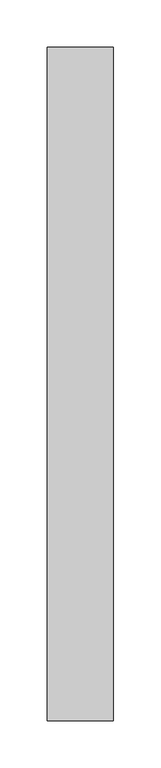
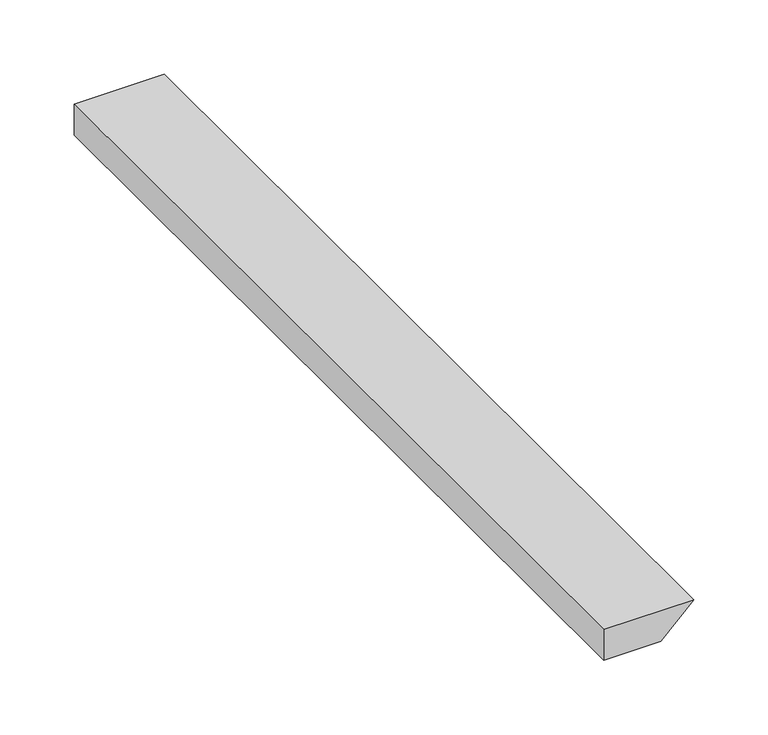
"""IFC4 building model written with IfcOpenShell, lengths in millimetres: proxy geometry, CAMBRIDGE^TABLE 2_4884 Rect-CORNER STILE 6."""

from ifc_helpers import new_model, si_unit, frame, origin, place, context, project, spatial, polyline, outline, extrude, source, transform, mapped, element, save


def generic_models_42825618(model_context):
    return source(origin(), model_context, "Body", "SweptSolid", [
        extrude(outline(polyline([(-406.4, 1524.0), (-406.4, 1454.15), (-431.8, 1454.15), (-431.8, 1498.6), (-406.4, 1524.0)])), frame((0.0, -711.2, 0.0), z_axis=(0.0, 1.0, 0.0), x_axis=(0.0, 0.0, 1.0)), (0.0, 0.0, 1.0), 711.2),
    ])


if __name__ == "__main__":
    model = new_model("IFC4")
    model_context = context("Model", 3, world=origin())
    ifc_project = project(units=[si_unit("LENGTHUNIT", "METRE", prefix="MILLI")], contexts=[model_context])
    site = spatial("IfcSite", under=ifc_project)
    building = spatial("IfcBuilding", under=site)
    placement = place(None, origin())
    generic_models_shape = generic_models_42825618(model_context)
    element("IfcBuildingElementProxy", 1, Name="CAMBRIDGE^TABLE 2_4884 Rect-CORNER STILE 6", ObjectType="CAMBRIDGE^TABLE 2_4884 Rect-CORNER STILE 6", at=placement, inside=building, context=model_context, shape_type="MappedRepresentation", body=[
        mapped(generic_models_shape, transform((0.0, 0.0, 0.0), x_axis=(1.0, 0.0, 0.0), y_axis=(0.0, 1.0, 0.0), z_axis=(0.0, 0.0, 1.0))),
    ])
    save(model, "model.ifc")
